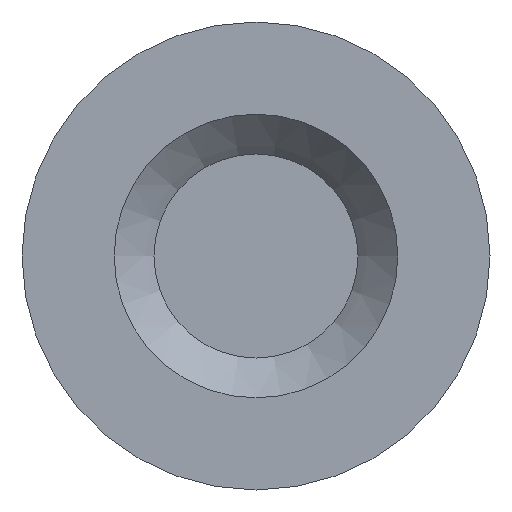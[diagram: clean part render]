
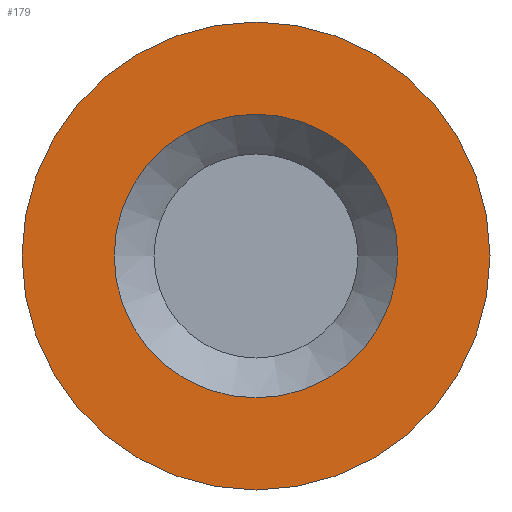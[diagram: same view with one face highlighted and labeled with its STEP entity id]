
A CAD part, left-side view. The second image highlights one B-rep face of the part: STEP entity #179.
In plain terms, the highlighted planar face has unit normal (-1, 0, 0).
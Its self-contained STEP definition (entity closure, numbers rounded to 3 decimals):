
#15=PLANE($,#205);
#28=FACE_BOUND($,#65,.T.);
#44=FACE_OUTER_BOUND($,#64,.T.);
#64=EDGE_LOOP($,(#144));
#65=EDGE_LOOP($,(#145));
#91=CIRCLE($,#204,1.448);
#92=CIRCLE($,#206,2.388);
#107=VERTEX_POINT($,#311);
#108=VERTEX_POINT($,#314);
#123=EDGE_CURVE($,#107,#107,#91,.T.);
#124=EDGE_CURVE($,#108,#108,#92,.T.);
#144=ORIENTED_EDGE($,*,*,#124,.F.);
#145=ORIENTED_EDGE($,*,*,#123,.T.);
#179=ADVANCED_FACE($,(#44,#28),#15,.T.);
#204=AXIS2_PLACEMENT_3D($,#312,#249,#250);
#205=AXIS2_PLACEMENT_3D($,#313,#251,#252);
#206=AXIS2_PLACEMENT_3D($,#315,#253,#254);
#249=DIRECTION('center_axis',(1.,0.,0.));
#250=DIRECTION('ref_axis',(0.,1.,0.));
#251=DIRECTION('center_axis',(-1.,0.,0.));
#252=DIRECTION('ref_axis',(0.,0.,1.));
#253=DIRECTION('center_axis',(1.,0.,0.));
#254=DIRECTION('ref_axis',(0.,1.,0.));
#311=CARTESIAN_POINT('',(5.439,1.448,0.));
#312=CARTESIAN_POINT('Origin',(5.439,0.,0.));
#313=CARTESIAN_POINT('Origin',(5.439,1.918,0.));
#314=CARTESIAN_POINT('',(5.439,2.388,0.));
#315=CARTESIAN_POINT('Origin',(5.439,0.,0.));
